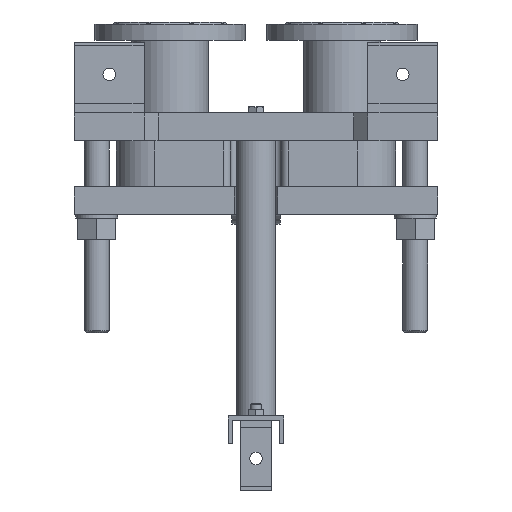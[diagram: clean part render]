
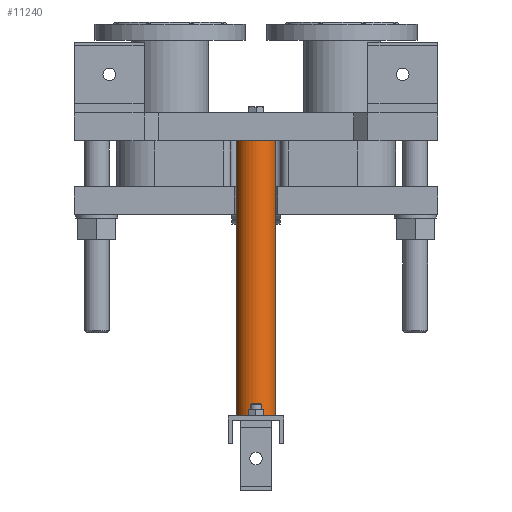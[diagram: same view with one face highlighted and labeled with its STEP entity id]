
A CAD part, front view. The second image highlights one B-rep face of the part: STEP entity #11240.
In plain terms, the highlighted cylindrical face has radius 28.5 mm (diameter 57 mm), a full revolution.
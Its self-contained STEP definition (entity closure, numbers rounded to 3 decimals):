
#781=LINE('',#22043,#1754);
#1754=VECTOR('',#14569,28.5);
#2333=CYLINDRICAL_SURFACE('',#12263,28.5);
#2995=FACE_OUTER_BOUND('',#3777,.T.);
#3777=EDGE_LOOP('',(#9013,#9014,#9015,#9016));
#4462=CIRCLE('',#12264,28.5);
#4463=CIRCLE('',#12265,28.5);
#5286=VERTEX_POINT('',#22040);
#5287=VERTEX_POINT('',#22042);
#6596=EDGE_CURVE('',#5286,#5286,#4462,.T.);
#6597=EDGE_CURVE('',#5286,#5287,#781,.T.);
#6598=EDGE_CURVE('',#5287,#5287,#4463,.T.);
#9013=ORIENTED_EDGE('',*,*,#6596,.F.);
#9014=ORIENTED_EDGE('',*,*,#6597,.T.);
#9015=ORIENTED_EDGE('',*,*,#6598,.T.);
#9016=ORIENTED_EDGE('',*,*,#6597,.F.);
#11240=ADVANCED_FACE('',(#2995),#2333,.T.);
#12263=AXIS2_PLACEMENT_3D('',#22039,#14565,#14566);
#12264=AXIS2_PLACEMENT_3D('',#22041,#14567,#14568);
#12265=AXIS2_PLACEMENT_3D('',#22044,#14570,#14571);
#14565=DIRECTION('center_axis',(0.,0.,
-1.));
#14566=DIRECTION('ref_axis',(-1.,0.,0.));
#14567=DIRECTION('center_axis',(0.,0.,
-1.));
#14568=DIRECTION('ref_axis',(-1.,0.,0.));
#14569=DIRECTION('',(0.,0.,1.));
#14570=DIRECTION('center_axis',(0.,0.,
-1.));
#14571=DIRECTION('ref_axis',(-1.,0.,0.));
#22039=CARTESIAN_POINT('Origin',(0.,215.,0.));
#22040=CARTESIAN_POINT('',(28.5,215.,-393.5));
#22041=CARTESIAN_POINT('Origin',(0.,215.,-393.5));
#22042=CARTESIAN_POINT('',(28.5,215.,0.));
#22043=CARTESIAN_POINT('',(28.5,215.,0.));
#22044=CARTESIAN_POINT('Origin',(0.,215.,0.));
